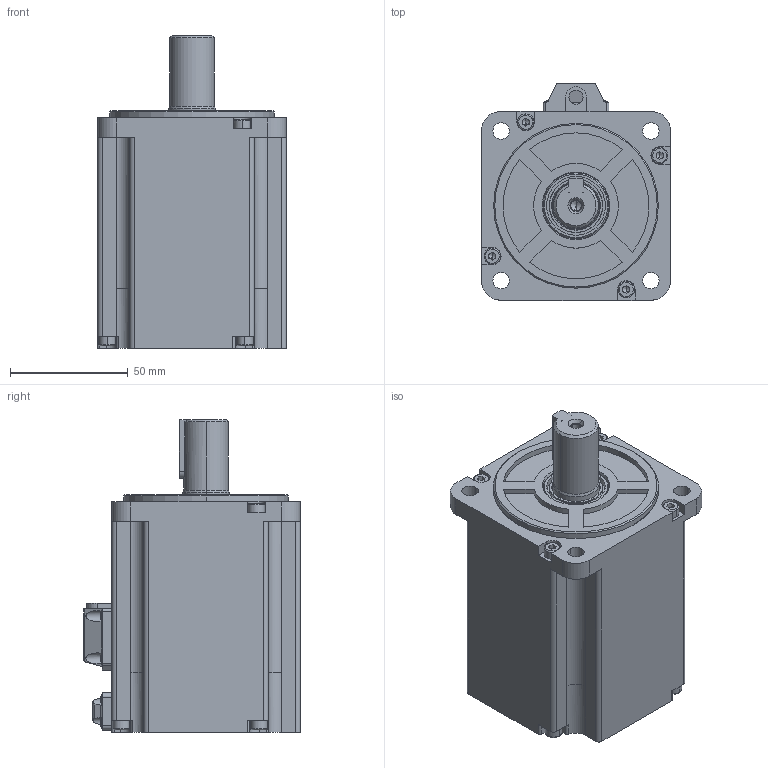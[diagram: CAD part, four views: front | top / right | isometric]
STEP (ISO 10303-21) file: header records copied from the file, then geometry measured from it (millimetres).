
FILE_DESCRIPTION((''),'2;1');
FILE_NAME('R-08E1K4A0_ASM_ASM','2021-10-18T',('lisy41'),(''),'CREO PARAMETRIC BY PTC INC, 2016260','CREO PARAMETRIC BY PTC INC, 2016260','');
FILE_SCHEMA(('CONFIG_CONTROL_DESIGN'));
Length unit declared in the file: millimetre
Products named in the file (1): R-08E1K4A0_ASM_ASM
Bounding box: 80.2 x 92.2 x 133 mm (x, y, z)
Volume: 581356.2 mm3; surface area: 59036.7 mm2
Topology: 1 solids, 91 shells, 1194 faces, 3067 edges, 1959 vertices
Faces by surface type: plane 499, cylinder 464, cone 187, torus 24, sphere 20
Entity records: 37303 total; most frequent: CARTESIAN_POINT 7796, DIRECTION 6462, ORIENTED_EDGE 5893, EDGE_CURVE 3025, AXIS2_PLACEMENT_3D 2521, VERTEX_POINT 1959, VECTOR 1420, LINE 1420
